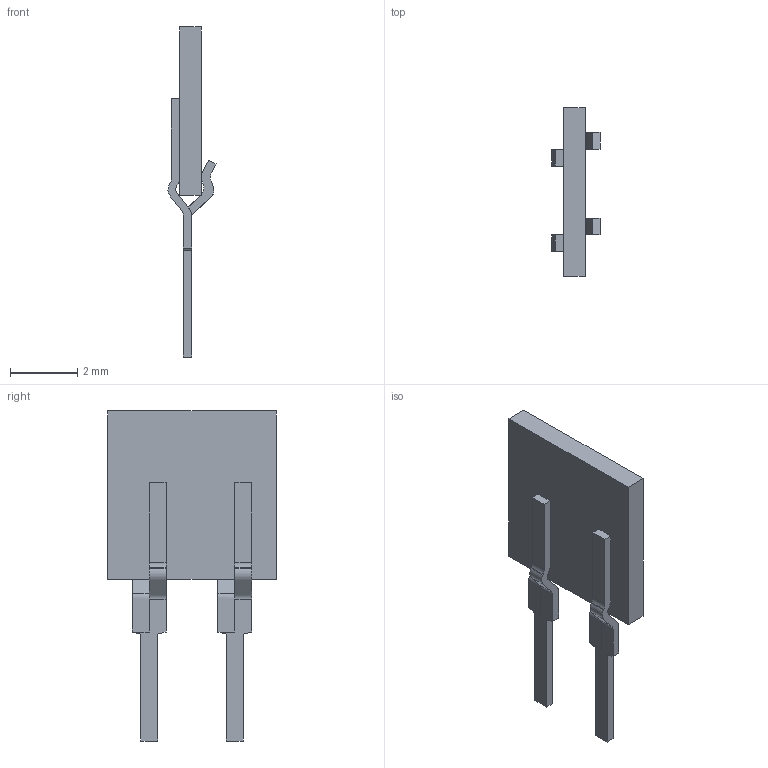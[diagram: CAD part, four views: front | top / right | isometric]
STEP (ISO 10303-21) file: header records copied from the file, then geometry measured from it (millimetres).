
FILE_DESCRIPTION(/* description */ (''),/* implementation_level */ '2;1');
FILE_NAME(/* name */ 'S:\DOCUMENT\AUTOCAD\3D_Modèles\10_3D-pour-VISHAY-COM\01_FICHIERS_ZIP_MARKETING\C6\TFS-S.stp',/* time_stamp */ '2018-02-26T11:17:39+01:00',/* author */ ('dparmentier'),/* organization */ ('unknown'),/* preprocessor_version */ 'ST-DEVELOPER v17',/* originating_system */ 'Autodesk Inventor 2018',/* authorisation */ '');
FILE_SCHEMA (('AUTOMOTIVE_DESIGN { 1 0 10303 214 3 1 1 }'));
Length unit declared in the file: millimetre
Products named in the file (1): TFS-S
Bounding box: 1.43 x 5 x 9.8 mm (x, y, z)
Volume: 18.4 mm3; surface area: 94.5 mm2
Topology: 3 solids, 3 shells, 76 faces, 206 edges, 136 vertices
Faces by surface type: plane 52, cylinder 20, bspline 4
Entity records: 2473 total; most frequent: CARTESIAN_POINT 503, ORIENTED_EDGE 412, DIRECTION 384, EDGE_CURVE 206, LINE 158, VECTOR 158, VERTEX_POINT 136, AXIS2_PLACEMENT_3D 113
